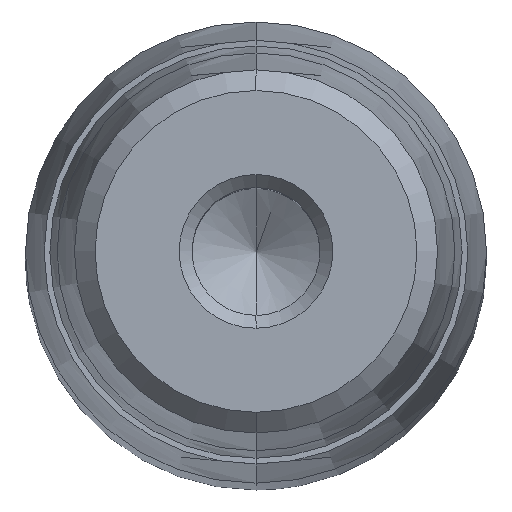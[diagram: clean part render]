
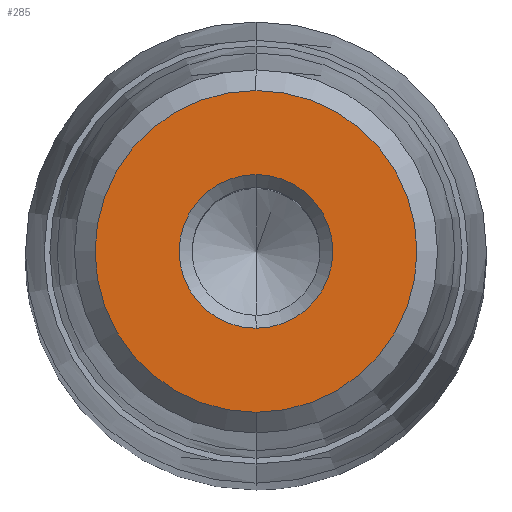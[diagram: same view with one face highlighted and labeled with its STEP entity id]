
A CAD part, top view. The second image highlights one B-rep face of the part: STEP entity #285.
In plain terms, the highlighted planar face has unit normal (0, 0, 1).
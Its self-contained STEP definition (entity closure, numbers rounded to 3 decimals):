
#164=CARTESIAN_POINT('Axis2P3D Location',(0.,0.,35.)) ;
#168=CARTESIAN_POINT('Vertex',(4.,0.,35.)) ;
#170=CARTESIAN_POINT('Vertex',(0.,-4.,35.)) ;
#173=CARTESIAN_POINT('Axis2P3D Location',(0.,0.,35.)) ;
#177=CARTESIAN_POINT('Vertex',(0.,4.,35.)) ;
#228=CARTESIAN_POINT('Axis2P3D Location',(0.,4.,35.)) ;
#233=CARTESIAN_POINT('Axis2P3D Location',(0.,0.,35.)) ;
#237=CARTESIAN_POINT('Vertex',(0.,8.375,35.)) ;
#239=CARTESIAN_POINT('Vertex',(8.375,0.,35.)) ;
#242=CARTESIAN_POINT('Axis2P3D Location',(0.,0.,35.)) ;
#246=CARTESIAN_POINT('Vertex',(-8.375,0.,35.)) ;
#249=CARTESIAN_POINT('Axis2P3D Location',(0.,0.,35.)) ;
#253=CARTESIAN_POINT('Vertex',(0.,-8.375,35.)) ;
#256=CARTESIAN_POINT('Axis2P3D Location',(0.,0.,35.)) ;
#267=CARTESIAN_POINT('Axis2P3D Location',(0.,0.,35.)) ;
#271=CARTESIAN_POINT('Vertex',(-4.,0.,35.)) ;
#274=CARTESIAN_POINT('Axis2P3D Location',(0.,0.,35.)) ;
#165=DIRECTION('Axis2P3D Direction',(-0.,0.,1.)) ;
#174=DIRECTION('Axis2P3D Direction',(-0.,0.,1.)) ;
#229=DIRECTION('Axis2P3D Direction',(0.,0.,-1.)) ;
#230=DIRECTION('Axis2P3D XDirection',(0.,1.,0.)) ;
#234=DIRECTION('Axis2P3D Direction',(0.,0.,-1.)) ;
#243=DIRECTION('Axis2P3D Direction',(0.,0.,-1.)) ;
#250=DIRECTION('Axis2P3D Direction',(0.,0.,-1.)) ;
#257=DIRECTION('Axis2P3D Direction',(0.,0.,-1.)) ;
#268=DIRECTION('Axis2P3D Direction',(0.,0.,-1.)) ;
#275=DIRECTION('Axis2P3D Direction',(0.,0.,-1.)) ;
#166=AXIS2_PLACEMENT_3D('Circle Axis2P3D',#164,#165,$) ;
#175=AXIS2_PLACEMENT_3D('Circle Axis2P3D',#173,#174,$) ;
#231=AXIS2_PLACEMENT_3D('Plane Axis2P3D',#228,#229,#230) ;
#235=AXIS2_PLACEMENT_3D('Circle Axis2P3D',#233,#234,$) ;
#244=AXIS2_PLACEMENT_3D('Circle Axis2P3D',#242,#243,$) ;
#251=AXIS2_PLACEMENT_3D('Circle Axis2P3D',#249,#250,$) ;
#258=AXIS2_PLACEMENT_3D('Circle Axis2P3D',#256,#257,$) ;
#269=AXIS2_PLACEMENT_3D('Circle Axis2P3D',#267,#268,$) ;
#276=AXIS2_PLACEMENT_3D('Circle Axis2P3D',#274,#275,$) ;
#262=ORIENTED_EDGE('',*,*,#241,.F.) ;
#263=ORIENTED_EDGE('',*,*,#248,.F.) ;
#264=ORIENTED_EDGE('',*,*,#255,.F.) ;
#265=ORIENTED_EDGE('',*,*,#260,.F.) ;
#280=ORIENTED_EDGE('',*,*,#172,.T.) ;
#281=ORIENTED_EDGE('',*,*,#273,.T.) ;
#282=ORIENTED_EDGE('',*,*,#278,.T.) ;
#283=ORIENTED_EDGE('',*,*,#179,.T.) ;
#284=FACE_BOUND('',#279,.T.) ;
#285=ADVANCED_FACE('722-24x224x247',(#266,#284),#232,.F.) ;
#167=CIRCLE('generated circle',#166,4.) ;
#176=CIRCLE('generated circle',#175,4.) ;
#236=CIRCLE('generated circle',#235,8.375) ;
#245=CIRCLE('generated circle',#244,8.375) ;
#252=CIRCLE('generated circle',#251,8.375) ;
#259=CIRCLE('generated circle',#258,8.375) ;
#270=CIRCLE('generated circle',#269,4.) ;
#277=CIRCLE('generated circle',#276,4.) ;
#172=EDGE_CURVE('',#169,#171,#167,.F.) ;
#179=EDGE_CURVE('',#178,#169,#176,.F.) ;
#241=EDGE_CURVE('',#238,#240,#236,.T.) ;
#248=EDGE_CURVE('',#247,#238,#245,.T.) ;
#255=EDGE_CURVE('',#254,#247,#252,.T.) ;
#260=EDGE_CURVE('',#240,#254,#259,.T.) ;
#273=EDGE_CURVE('',#171,#272,#270,.T.) ;
#278=EDGE_CURVE('',#272,#178,#277,.T.) ;
#261=EDGE_LOOP('',(#262,#263,#264,#265)) ;
#279=EDGE_LOOP('',(#280,#281,#282,#283)) ;
#266=FACE_OUTER_BOUND('',#261,.T.) ;
#232=PLANE('Plane',#231) ;
#169=VERTEX_POINT('',#168) ;
#171=VERTEX_POINT('',#170) ;
#178=VERTEX_POINT('',#177) ;
#238=VERTEX_POINT('',#237) ;
#240=VERTEX_POINT('',#239) ;
#247=VERTEX_POINT('',#246) ;
#254=VERTEX_POINT('',#253) ;
#272=VERTEX_POINT('',#271) ;
